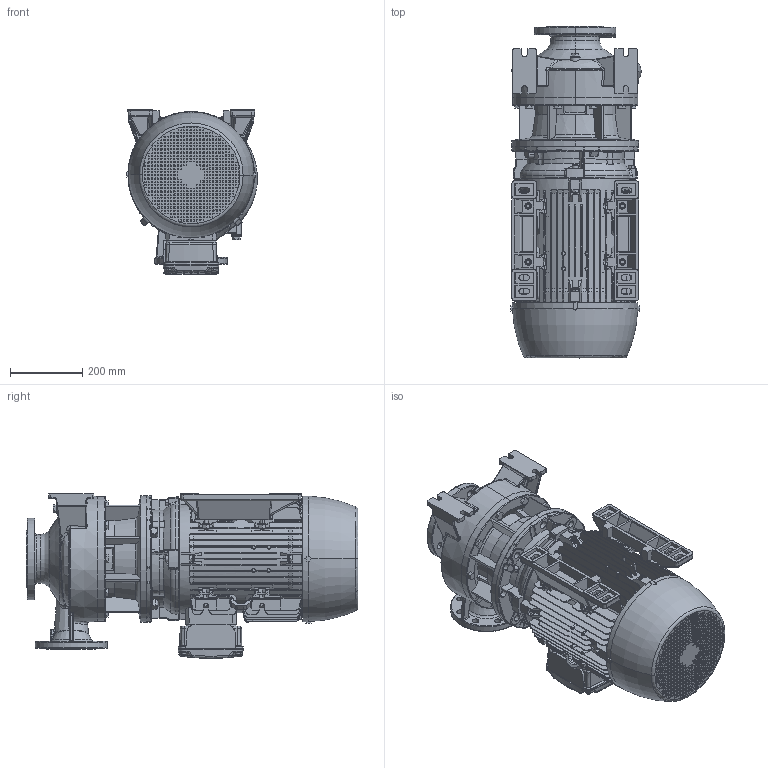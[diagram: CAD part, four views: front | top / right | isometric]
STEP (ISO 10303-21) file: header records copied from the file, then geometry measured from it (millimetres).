
FILE_DESCRIPTION (( 'STEP AP214' ), '1' );
FILE_NAME ('3LS 80-200_22.0_(180ML)_W21.STEP', '2026-09-08T23:56:05', ( '' ), ( '' ), 'SwSTEP 2.0', 'SolidWorks 2024', '' );
FILE_SCHEMA (( 'AUTOMOTIVE_DESIGN' ));
Length unit declared in the file: inch
Products named in the file (3): 3LS 80-200_22.0_(180ML)_W21; 80-200_22; 180M_L ALIE3_W21T_B35
Assembly tree (2 placements, depth 2):
  3LS 80-200_22.0_(180ML)_W21
    80-200_22
    180M_L ALIE3_W21T_B35
Bounding box: 360.59 x 916.8 x 454.96 mm (x, y, z)
Volume: 67945491.3 mm3; surface area: 3483737.7 mm2
Topology: 26 solids, 34 shells, 5754 faces, 14804 edges, 9517 vertices
Faces by surface type: plane 3611, cylinder 795, bspline 545, cone 529, torus 241, sphere 33
Entity records: 213119 total; most frequent: CARTESIAN_POINT 80334, ORIENTED_EDGE 29544, DIRECTION 24235, EDGE_CURVE 14772, VERTEX_POINT 9513, VECTOR 9233, LINE 9233, AXIS2_PLACEMENT_3D 7501
